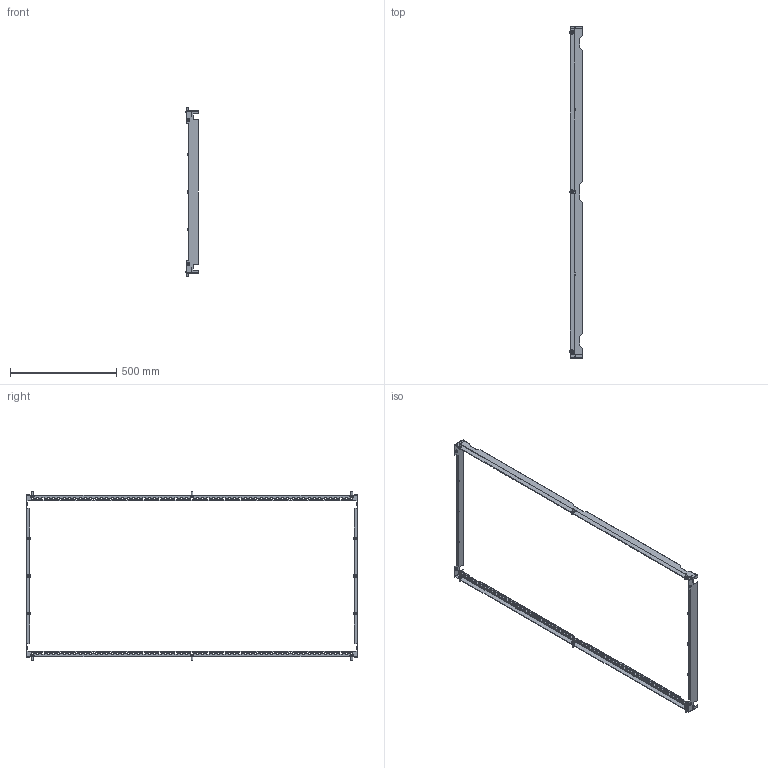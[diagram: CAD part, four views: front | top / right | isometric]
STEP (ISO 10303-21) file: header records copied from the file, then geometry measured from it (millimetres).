
FILE_DESCRIPTION (( 'STEP AP203' ), '1' );
FILE_NAME ('R6IP1680.step', '2025-07-11T08:07:40', ( '' ), ( '' ), 'SwSTEP 2.0', 'SolidWorks 2022', '' );
FILE_SCHEMA (( 'CONFIG_CONTROL_DESIGN' ));
Length unit declared in the file: millimetre
Products named in the file (9): RB.3320.00.01.0_-03; RB.3321.00.01.0_-01; RB.3321.00.00.0 СБ_-01; M8x20 DIN 6921 cl.8,8 Zinc_straight; Pressing nut М6 S-M6-1; M6 DIN 6923 cl.8,0 Zinc_straight; RB.3320.00.00.0 СБ_-03; RB.3320.00.02.0_-03; R6IP1680
Assembly tree (22 placements, depth 3):
  R6IP1680
    RB.3320.00.00.0 СБ_-03  x2
      RB.3320.00.01.0_-03
      RB.3320.00.02.0_-03
    RB.3321.00.00.0 СБ_-01  x2
      RB.3321.00.01.0_-01
      Pressing nut М6 S-M6-1
    M6 DIN 6923 cl.8,0 Zinc_straight  x5
    M8x20 DIN 6921 cl.8,8 Zinc_straight  x7
Bounding box: 57.76 x 1557.6 x 793.2 mm (x, y, z)
Volume: 535612.5 mm3; surface area: 849534 mm2
Topology: 24 solids, 24 shells, 4786 faces, 13897 edges, 9172 vertices
Faces by surface type: plane 3479, cylinder 1091, cone 125, bspline 72, torus 19
Full cylindrical faces by diameter (mm): 5 x11, 6 x5, 8 x11, 8.73 x6, 8.85 x6, 11.1 x6
Entity records: 64891 total; most frequent: CARTESIAN_POINT 11844, ORIENTED_EDGE 11028, DIRECTION 10340, EDGE_CURVE 5514, LINE 4288, VECTOR 4288, VERTEX_POINT 3664, AXIS2_PLACEMENT_3D 3026
